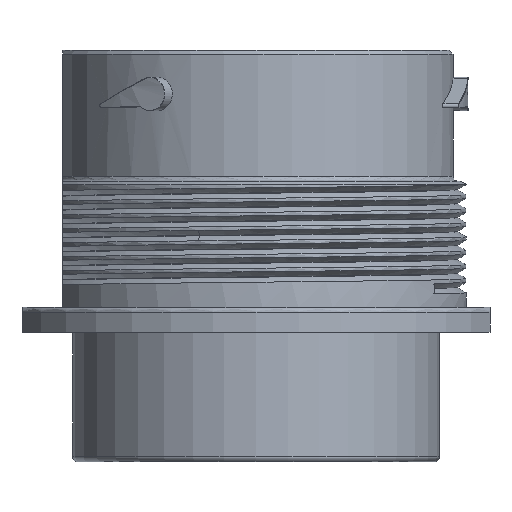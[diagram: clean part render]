
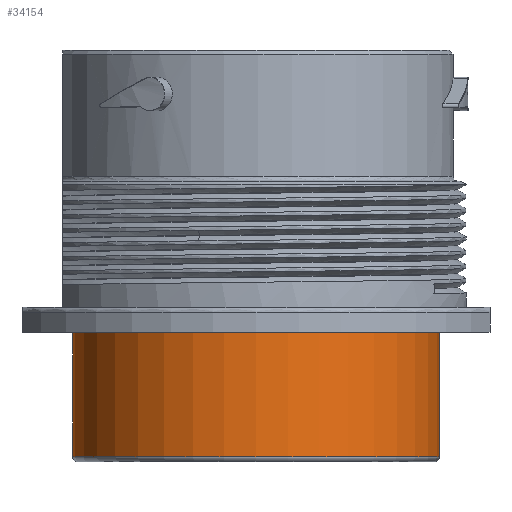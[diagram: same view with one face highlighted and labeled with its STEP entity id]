
A CAD part, left-side view. The second image highlights one B-rep face of the part: STEP entity #34154.
In plain terms, the highlighted cylindrical face has radius 18.669 mm (diameter 37.338 mm), a partial arc.
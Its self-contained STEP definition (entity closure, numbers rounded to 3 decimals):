
#6297=CARTESIAN_POINT('',(0.,0.,-28.702));
#6298=DIRECTION('',(0.,0.,1.));
#6299=DIRECTION('',(0.,1.,0.));
#6300=AXIS2_PLACEMENT_3D('',#6297,#6298,#6299);
#6315=CARTESIAN_POINT('',(0.,0.,-41.351));
#6316=DIRECTION('',(0.,0.,-1.));
#6317=DIRECTION('',(0.,-1.,0.));
#6318=AXIS2_PLACEMENT_3D('',#6315,#6316,#6317);
#6320=CARTESIAN_POINT('',(0.,0.,-39.675));
#6321=DIRECTION('',(0.,0.,-1.));
#6322=DIRECTION('',(-0.027,1.,0.));
#6323=AXIS2_PLACEMENT_3D('',#6320,#6321,#6322);
#6325=DIRECTION('',(0.,0.,1.));
#6326=VECTOR('',#6325,7.62);
#6327=CARTESIAN_POINT('',(-0.503,18.662,-39.675));
#6328=LINE('',#6327,#6326);
#6329=CARTESIAN_POINT('',(0.,0.,-32.055));
#6330=DIRECTION('',(0.,0.,1.));
#6331=DIRECTION('',(0.,1.,0.));
#6332=AXIS2_PLACEMENT_3D('',#6329,#6330,#6331);
#9039=DIRECTION('',(0.,0.,1.));
#9040=VECTOR('',#9039,12.649);
#9041=CARTESIAN_POINT('',(0.,-18.669,-41.351));
#9042=LINE('',#9041,#9040);
#9043=DIRECTION('',(0.,0.,1.));
#9044=VECTOR('',#9043,3.353);
#9045=CARTESIAN_POINT('',(0.,18.669,-32.055));
#9046=LINE('',#9045,#9044);
#9061=DIRECTION('',(0.,0.,-1.));
#9062=VECTOR('',#9061,1.676);
#9063=CARTESIAN_POINT('',(0.,18.669,-39.675));
#9064=LINE('',#9063,#9062);
#14578=CARTESIAN_POINT('',(0.,18.669,-28.702));
#14579=CARTESIAN_POINT('',(0.,-18.669,-28.702));
#14580=VERTEX_POINT('',#14578);
#14581=VERTEX_POINT('',#14579);
#15040=CARTESIAN_POINT('',(0.,-18.669,-41.351));
#15041=CARTESIAN_POINT('',(0.,18.669,-41.351));
#15042=VERTEX_POINT('',#15040);
#15043=VERTEX_POINT('',#15041);
#15464=CARTESIAN_POINT('',(0.,18.669,-32.055));
#15465=CARTESIAN_POINT('',(-0.503,18.662,-32.055));
#15466=VERTEX_POINT('',#15464);
#15467=VERTEX_POINT('',#15465);
#15471=CARTESIAN_POINT('',(-0.503,18.662,-39.675));
#15473=VERTEX_POINT('',#15471);
#15474=CARTESIAN_POINT('',(0.,18.669,-39.675));
#15475=VERTEX_POINT('',#15474);
#34132=CARTESIAN_POINT('',(0.,0.,-41.659));
#34133=DIRECTION('',(0.,0.,1.));
#34134=DIRECTION('',(0.,1.,0.));
#34135=AXIS2_PLACEMENT_3D('',#34132,#34133,#34134);
#34136=CYLINDRICAL_SURFACE('',#34135,18.669);
#34138=ORIENTED_EDGE('',*,*,#34137,.T.);
#34140=ORIENTED_EDGE('',*,*,#34139,.F.);
#34142=ORIENTED_EDGE('',*,*,#34141,.F.);
#34144=ORIENTED_EDGE('',*,*,#34143,.T.);
#34146=ORIENTED_EDGE('',*,*,#34145,.F.);
#34148=ORIENTED_EDGE('',*,*,#34147,.T.);
#34149=ORIENTED_EDGE('',*,*,#34125,.T.);
#34151=ORIENTED_EDGE('',*,*,#34150,.F.);
#34152=EDGE_LOOP('',(#34138,#34140,#34142,#34144,#34146,#34148,#34149,#34151));
#34153=FACE_OUTER_BOUND('',#34152,.F.);
#34154=ADVANCED_FACE('',(#34153),#34136,.T.);
#6301=CIRCLE('',#6300,18.669);
#6319=CIRCLE('',#6318,18.669);
#6324=CIRCLE('',#6323,18.669);
#6333=CIRCLE('',#6332,18.669);
#34125=EDGE_CURVE('',#14580,#14581,#6301,.T.);
#34137=EDGE_CURVE('',#15042,#15043,#6319,.T.);
#34139=EDGE_CURVE('',#15475,#15043,#9064,.T.);
#34141=EDGE_CURVE('',#15473,#15475,#6324,.T.);
#34143=EDGE_CURVE('',#15473,#15467,#6328,.T.);
#34145=EDGE_CURVE('',#15466,#15467,#6333,.T.);
#34147=EDGE_CURVE('',#15466,#14580,#9046,.T.);
#34150=EDGE_CURVE('',#15042,#14581,#9042,.T.);
